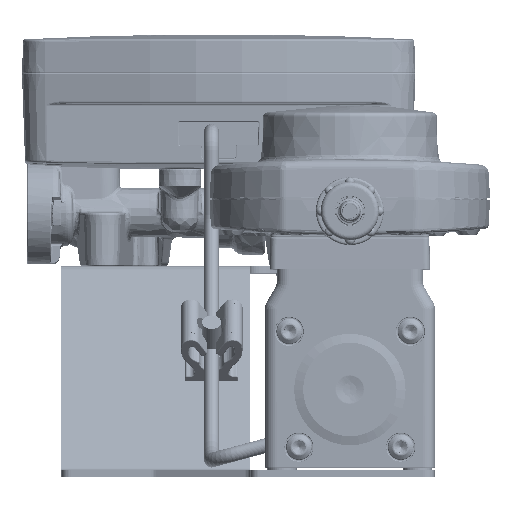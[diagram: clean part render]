
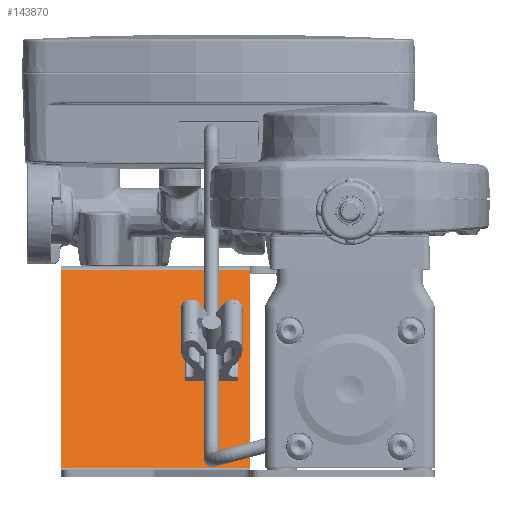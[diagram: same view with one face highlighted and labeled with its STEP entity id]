
A CAD part, top view. The second image highlights one B-rep face of the part: STEP entity #143870.
In plain terms, the highlighted planar face has unit normal (0, 0.707, 0.707) as drawn and (-0.707, -0.707, 0) by its records, which use the part's own axes.
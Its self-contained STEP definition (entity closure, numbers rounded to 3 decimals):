
#140922=DIRECTION('',(0.,0.,-1.));
#140923=VECTOR('',#140922,39.);
#140924=CARTESIAN_POINT('',(91.699,-41.321,61.));
#140925=LINE('',#140924,#140923);
#141583=DIRECTION('',(-0.707,0.707,0.));
#141584=VECTOR('',#141583,57.815);
#141585=CARTESIAN_POINT('',(91.699,-41.321,22.));
#141586=LINE('',#141585,#141584);
#141590=DIRECTION('',(0.707,-0.707,0.));
#141591=VECTOR('',#141590,57.815);
#141592=CARTESIAN_POINT('',(50.818,-0.439,61.));
#141593=LINE('',#141592,#141591);
#141597=CARTESIAN_POINT('',(72.961,-22.582,30.));
#141598=DIRECTION('',(0.707,0.707,0.));
#141599=DIRECTION('',(0.707,-0.707,0.));
#141600=AXIS2_PLACEMENT_3D('',#141597,#141598,#141599);
#141605=CARTESIAN_POINT('',(72.961,-22.582,30.));
#141606=DIRECTION('',(0.707,0.707,0.));
#141607=DIRECTION('',(-0.707,0.707,0.));
#141608=AXIS2_PLACEMENT_3D('',#141605,#141606,#141607);
#141628=DIRECTION('',(0.,0.,1.));
#141629=VECTOR('',#141628,39.);
#141630=CARTESIAN_POINT('',(50.818,-0.439,22.));
#141631=LINE('',#141630,#141629);
#141863=CARTESIAN_POINT('',(50.818,-0.439,22.));
#141865=VERTEX_POINT('',#141863);
#141872=CARTESIAN_POINT('',(50.818,-0.439,61.));
#141873=CARTESIAN_POINT('',(91.699,-41.321,61.));
#141874=VERTEX_POINT('',#141872);
#141875=VERTEX_POINT('',#141873);
#141876=CARTESIAN_POINT('',(91.699,-41.321,22.));
#141877=VERTEX_POINT('',#141876);
#141982=CARTESIAN_POINT('',(75.259,-24.88,30.));
#141983=CARTESIAN_POINT('',(70.663,-20.284,30.));
#141984=VERTEX_POINT('',#141982);
#141985=VERTEX_POINT('',#141983);
#143852=CARTESIAN_POINT('',(49.939,0.439,61.));
#143853=DIRECTION('',(0.707,0.707,0.));
#143854=DIRECTION('',(0.,0.,1.));
#143855=AXIS2_PLACEMENT_3D('',#143852,#143853,#143854);
#143856=PLANE('',#143855);
#143857=ORIENTED_EDGE('',*,*,#143840,.T.);
#143859=ORIENTED_EDGE('',*,*,#143858,.T.);
#143860=ORIENTED_EDGE('',*,*,#143043,.T.);
#143861=ORIENTED_EDGE('',*,*,#143089,.T.);
#143862=EDGE_LOOP('',(#143857,#143859,#143860,#143861));
#143863=FACE_OUTER_BOUND('',#143862,.F.);
#143865=ORIENTED_EDGE('',*,*,#143864,.F.);
#143867=ORIENTED_EDGE('',*,*,#143866,.F.);
#143868=EDGE_LOOP('',(#143865,#143867));
#143869=FACE_BOUND('',#143868,.F.);
#141601=CIRCLE('',#141600,3.25);
#141609=CIRCLE('',#141608,3.25);
#143043=EDGE_CURVE('',#141874,#141875,#141593,.T.);
#143089=EDGE_CURVE('',#141875,#141877,#140925,.T.);
#143840=EDGE_CURVE('',#141877,#141865,#141586,.T.);
#143858=EDGE_CURVE('',#141865,#141874,#141631,.T.);
#143864=EDGE_CURVE('',#141984,#141985,#141601,.T.);
#143866=EDGE_CURVE('',#141985,#141984,#141609,.T.);
#143870=ADVANCED_FACE('',(#143863,#143869),#143856,.F.);
